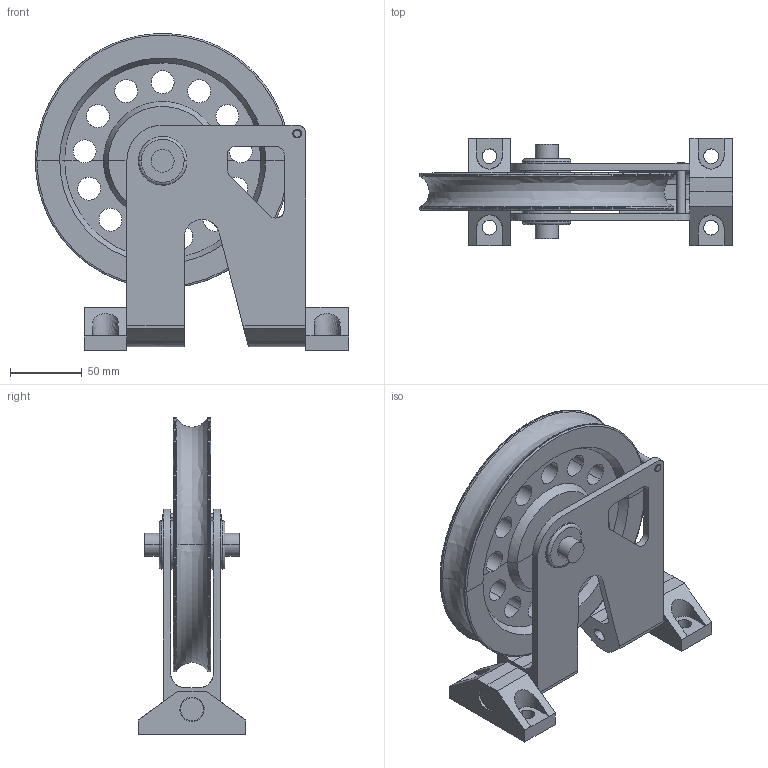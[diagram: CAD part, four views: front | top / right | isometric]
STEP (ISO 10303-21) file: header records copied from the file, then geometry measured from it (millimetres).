
FILE_DESCRIPTION(/* description */ (''),/* implementation_level */ '2;1');
FILE_NAME(/* name */ 'POULIE SIMPLE ARTICULEE D 180',/* time_stamp */ '2005-05-31T08:58:50+02:00',/* author */ (''),/* organization */ (''),/* preprocessor_version */ 'ST-DEVELOPER v8',/* originating_system */ '',/* authorisation */ '');
FILE_SCHEMA (('CONFIG_CONTROL_DESIGN'));
Length unit declared in the file: millimetre
Products named in the file (1): 1
Bounding box: 219 x 75 x 221.39 mm (x, y, z)
Volume: 723845.5 mm3; surface area: 206076.2 mm2
Topology: 21 solids, 27 shells, 358 faces, 818 edges, 502 vertices
Faces by surface type: bspline 358
Entity records: 14359 total; most frequent: CARTESIAN_POINT 9475, ORIENTED_EDGE 1614, EDGE_CURVE 814, VERTEX_POINT 498, B_SPLINE_CURVE_WITH_KNOTS 470, EDGE_LOOP 432, ADVANCED_FACE 358, FACE_OUTER_BOUND 358
